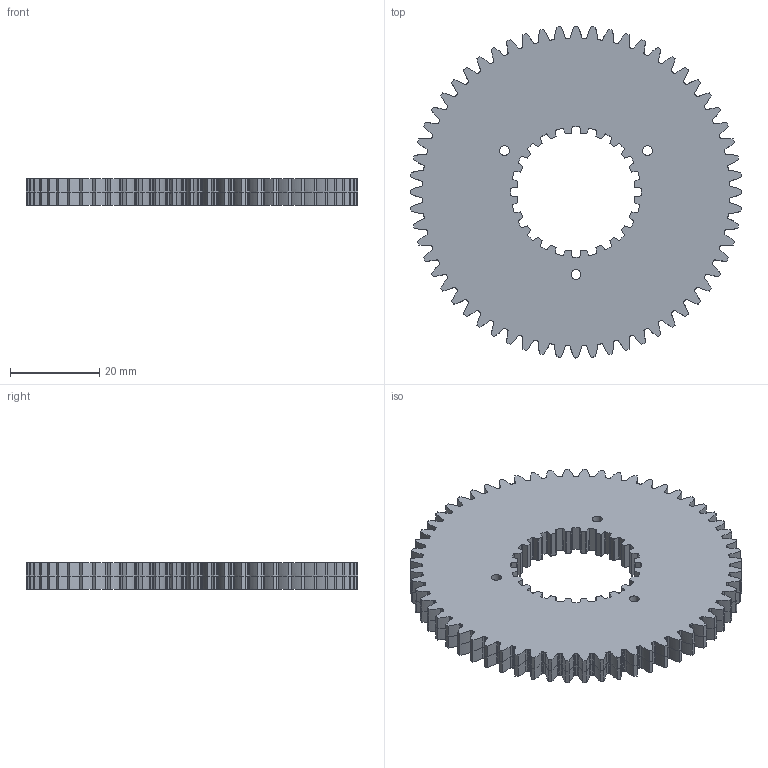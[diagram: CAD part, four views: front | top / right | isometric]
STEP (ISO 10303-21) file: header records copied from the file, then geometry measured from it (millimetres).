
FILE_DESCRIPTION(('Open CASCADE Model'),'2;1');
FILE_NAME('CH_output','2026-11-05T16:12:25',('Author'),('Open CASCADE'), 'Open CASCADE STEP processor 7.9','build123d','Unknown');
FILE_SCHEMA(('AUTOMOTIVE_DESIGN { 1 0 10303 214 1 1 1 1 }'));
Length unit declared in the file: millimetre
Products named in the file (2): CH_output
Assembly tree (1 placements, depth 2):
  CH_output
    CH_output
Bounding box: 74.4 x 74.4 x 6 mm (x, y, z)
Volume: 20467.2 mm3; surface area: 10449.7 mm2
Topology: 1 solids, 1 shells, 1037 faces, 2685 edges, 1650 vertices
Faces by surface type: cylinder 699, extrusion 240, plane 98
Full cylindrical faces by diameter (mm): 2.2 x3
Entity records: 86990 total; most frequent: CARTESIAN_POINT 33184, DIRECTION 10151, VECTOR 5799, LINE 5559, ORIENTED_EDGE 5370, PCURVE 5370, DEFINITIONAL_REPRESENTATION 5370, EDGE_CURVE 2685
